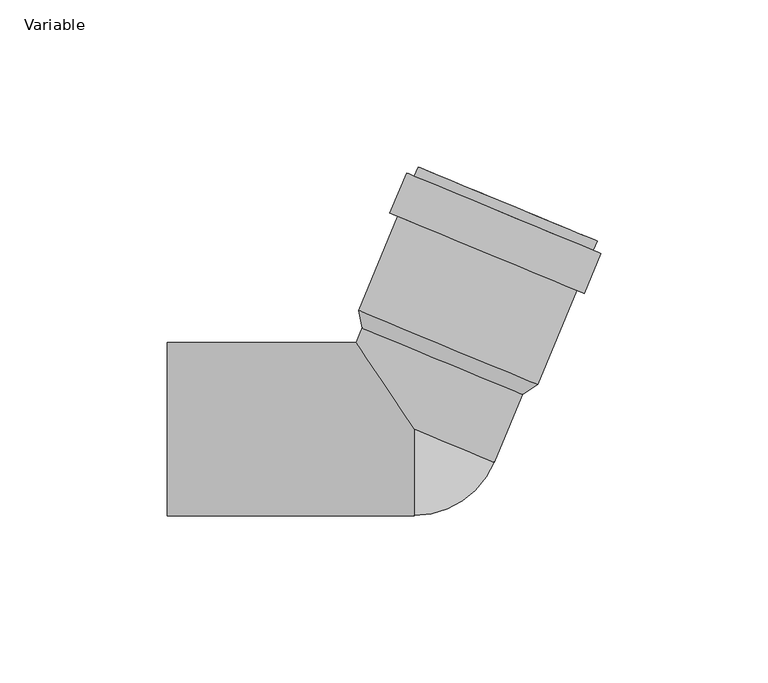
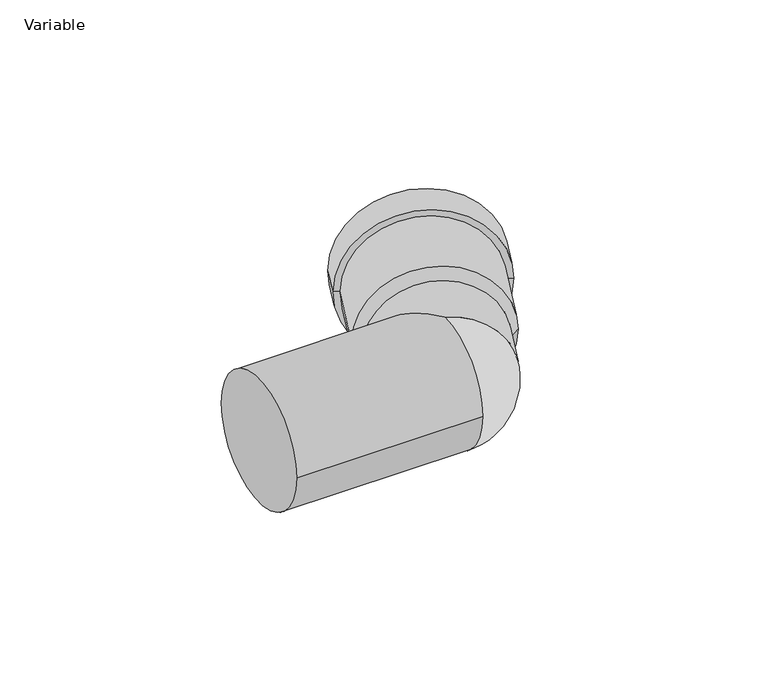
"""IFC4 building model written with IfcOpenShell, lengths in millimetres: pipe fitting geometry, AliaxisFR_Friaphon_ElbowMF_FR : Variable."""

from ifc_helpers import new_model, si_unit, point, frame, origin, place, context, project, spatial, polyline, circle_curve, ellipse_curve, trimmed, source, transform, mapped, element, save
from ifc_brep_helpers import plane_surface, cylinder_surface, revolved_surface, advanced_brep


def variable_d4c65911(model_context):
    return source(origin(), model_context, "Body", "AdvancedBrep", [
        advanced_brep(
        [(54.728397, 56.3453863, 0.0), (1.1433841, 78.5410254, 0.0), (3.9150227, 77.3929751, 0.0), (51.9567584, 57.4934366, 0.0), (50.9151609, 40.6066052, 0.0), (-7.2892496, 64.7156615, 0.0), (-2.314365, 76.7260954, 0.0), (55.8900455, 52.6170392, 0.0), (48.6054621, 41.5633138, 0.0), (-4.9795508, 63.7589529, 0.0), (36.9336174, 13.3849881, 0.0), (-16.6513955, 35.5806272, 0.0), (-15.6018323, 30.275119, 0.0), (32.4399034, 10.3755805, 0.0), (53.5803467, 53.5737477, 0.0), (-0.0046662, 75.7693868, 0.0)],
        [
            (0, 1, circle_curve(frame((27.9358906, 67.4432059, 0.0), z_axis=(0.38268343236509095, 0.9238795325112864, 0.0), x_axis=(-0.9238795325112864, 0.38268343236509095, 0.0)), 29.0)),
            (1, 2),
            (2, 3, circle_curve(frame((27.9358906, 67.4432059, 0.0), z_axis=(-0.38268343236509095, -0.9238795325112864, 0.0), x_axis=(-0.9238795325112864, 0.38268343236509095, 0.0)), 26.0)),
            (3, 0),
            (1, 0, circle_curve(frame((27.9358906, 67.4432059, 0.0), z_axis=(0.38268343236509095, 0.9238795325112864, 0.0), x_axis=(-0.9238795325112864, 0.38268343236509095, 0.0)), 29.0)),
            (3, 2, circle_curve(frame((27.9358906, 67.4432059, 0.0), z_axis=(-0.38268343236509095, -0.9238795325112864, 0.0), x_axis=(-0.9238795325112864, 0.38268343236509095, 0.0)), 26.0)),
            (4, 5, circle_curve(frame((21.8129556, 52.6611334, 0.0), z_axis=(0.38268343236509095, 0.9238795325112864, 0.0), x_axis=(-0.9238795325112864, 0.38268343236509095, 0.0)), 31.5)),
            (5, 6),
            (6, 7, circle_curve(frame((26.7878403, 64.6715673, 0.0), z_axis=(-0.38268343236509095, -0.9238795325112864, 0.0), x_axis=(-0.9238795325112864, 0.38268343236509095, 0.0)), 31.5)),
            (7, 4),
            (5, 4, circle_curve(frame((21.8129556, 52.6611334, 0.0), z_axis=(0.38268343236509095, 0.9238795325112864, 0.0), x_axis=(-0.9238795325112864, 0.38268343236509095, 0.0)), 31.5)),
            (7, 6, circle_curve(frame((26.7878403, 64.6715673, 0.0), z_axis=(-0.38268343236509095, -0.9238795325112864, 0.0), x_axis=(-0.9238795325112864, 0.38268343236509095, 0.0)), 31.5)),
            (8, 9, circle_curve(frame((21.8129556, 52.6611334, 0.0), z_axis=(0.38268343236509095, 0.9238795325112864, 0.0), x_axis=(-0.9238795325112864, 0.38268343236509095, 0.0)), 29.0)),
            (9, 5),
            (4, 8),
            (9, 8, circle_curve(frame((21.8129556, 52.6611334, 0.0), z_axis=(0.38268343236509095, 0.9238795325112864, 0.0), x_axis=(-0.9238795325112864, 0.38268343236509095, 0.0)), 29.0)),
            (10, 11, circle_curve(frame((10.141111, 24.4828076, 0.0), z_axis=(0.38268343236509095, 0.9238795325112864, 0.0), x_axis=(-0.9238795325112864, 0.38268343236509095, 0.0)), 29.0)),
            (11, 9),
            (8, 10),
            (11, 10, circle_curve(frame((10.141111, 24.4828076, 0.0), z_axis=(0.38268343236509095, 0.9238795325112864, 0.0), x_axis=(-0.9238795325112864, 0.38268343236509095, 0.0)), 29.0)),
            (2, 12),
            (12, 13, circle_curve(frame((8.4190355, 20.3253497, 0.0), z_axis=(-0.38268343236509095, -0.9238795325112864, 0.0), x_axis=(-0.9238795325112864, 0.38268343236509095, 0.0)), 26.0)),
            (13, 3),
            (13, 12, circle_curve(frame((8.4190355, 20.3253497, 0.0), z_axis=(-0.38268343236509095, -0.9238795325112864, 0.0), x_axis=(-0.9238795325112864, 0.38268343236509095, 0.0)), 26.0)),
            (12, 11),
            (10, 13),
            (14, 15, circle_curve(frame((26.7878403, 64.6715673, 0.0), z_axis=(0.38268343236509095, 0.9238795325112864, 0.0), x_axis=(-0.9238795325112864, 0.38268343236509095, 0.0)), 29.0)),
            (15, 1),
            (0, 14),
            (15, 14, circle_curve(frame((26.7878403, 64.6715673, 0.0), z_axis=(0.38268343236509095, 0.9238795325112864, 0.0), x_axis=(-0.9238795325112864, 0.38268343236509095, 0.0)), 29.0)),
            (6, 15),
            (14, 7),
        ],
        [
            plane_surface(frame((27.9358906, 67.4432059, 0.0), z_axis=(0.38268343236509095, 0.9238795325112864, 0.0), x_axis=(-0.9238795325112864, 0.38268343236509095, 0.0))),
            cylinder_surface(frame((8.4190355, 20.3253497, 0.0), z_axis=(-0.38268343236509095, -0.9238795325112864, 0.0), x_axis=(-0.9238795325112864, 0.38268343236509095, 0.0)), 31.5),
            plane_surface(frame((21.8129556, 52.6611334, 0.0), z_axis=(-0.38268343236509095, -0.9238795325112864, 0.0), x_axis=(-0.9238795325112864, 0.38268343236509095, 0.0))),
            cylinder_surface(frame((8.4190355, 20.3253497, 0.0), z_axis=(-0.38268343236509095, -0.9238795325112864, 0.0), x_axis=(-0.9238795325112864, 0.38268343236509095, 0.0)), 29.0),
            revolved_surface(polyline([(-15.601832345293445, 30.275118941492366, 0.0), (3.9150227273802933, 77.39297515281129, 0.0)]), (8.4190355, 20.3253497, 0.0), (-0.38268343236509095, -0.9238795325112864, 0.0)),
            revolved_surface(polyline([(-16.6513955, 35.5806272, 0.0), (-15.6018323, 30.275119, 0.0)]), (8.4190355, 20.3253497, 0.0), (-0.38268343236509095, -0.9238795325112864, 0.0)),
            plane_surface(frame((26.7878403, 64.6715673, 0.0), z_axis=(0.38268343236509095, 0.9238795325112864, 0.0), x_axis=(-0.9238795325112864, 0.38268343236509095, 0.0))),
        ],
        [
            (0, [[1, 2, 3, 4]]),
            (0, [[5, -4, 6, -2]]),
            (1, [[7, 8, 9, 10]]),
            (1, [[11, -10, 12, -8]]),
            (2, [[13, 14, -7, 15]]),
            (2, [[16, -15, -11, -14]]),
            (3, [[17, 18, -13, 19]]),
            (3, [[20, -19, -16, -18]]),
            (4, [[-3, 21, 22, 23]]),
            (4, [[-6, -23, 24, -21]]),
            (5, [[-22, 25, -17, 26]]),
            (5, [[-24, -26, -20, -25]]),
            (3, [[27, 28, -1, 29]]),
            (3, [[30, -29, -5, -28]]),
            (6, [[-9, 31, -27, 32]]),
            (6, [[-12, -32, -30, -31]]),
        ],
    ),
        advanced_brep(
        [(-14.453782, 33.0467576, 0.0), (9.5670858, 23.0969883, 26.0), (33.5879537, 13.1472191, 0.0), (9.5670858, 23.0969883, -26.0), (24.0208678, -9.9497692, 0.0), (-17.3726446, 26.0, 0.0), (0.0, 0.0, 26.0), (0.0, 0.0, -26.0), (-74.0, -26.0, 0.0), (-74.0, 26.0, 0.0), (0.0, -26.0, 0.0)],
        [
            (0, 1, circle_curve(frame((9.5670858, 23.0969883, 0.0), z_axis=(0.3826834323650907, 0.9238795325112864, 0.0), x_axis=(-0.9238795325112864, 0.3826834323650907, 0.0)), 26.0)),
            (1, 2, circle_curve(frame((9.5670858, 23.0969883, 0.0), z_axis=(0.3826834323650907, 0.9238795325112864, 0.0), x_axis=(-0.9238795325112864, 0.3826834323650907, 0.0)), 26.0)),
            (2, 3, circle_curve(frame((9.5670858, 23.0969883, 0.0), z_axis=(0.3826834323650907, 0.9238795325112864, 0.0), x_axis=(-0.9238795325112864, 0.3826834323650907, 0.0)), 26.0)),
            (3, 0, circle_curve(frame((9.5670858, 23.0969883, 0.0), z_axis=(0.3826834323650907, 0.9238795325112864, 0.0), x_axis=(-0.9238795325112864, 0.3826834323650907, 0.0)), 26.0)),
            (4, 2),
            (0, 5),
            (5, 6, ellipse_curve(frame((0.0, 0.0, 0.0), z_axis=(0.8314696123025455, 0.5555702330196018, 0.0), x_axis=(0.5555702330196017, -0.8314696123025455, 0.0)), 31.2699341, 26.0)),
            (6, 4, circle_curve(frame((0.0, 0.0, 0.0), z_axis=(0.3826834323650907, 0.9238795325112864, 0.0), x_axis=(-0.9238795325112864, 0.3826834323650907, 0.0)), 26.0)),
            (4, 7, circle_curve(frame((0.0, 0.0, 0.0), z_axis=(0.3826834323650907, 0.9238795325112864, 0.0), x_axis=(-0.9238795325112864, 0.3826834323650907, 0.0)), 26.0)),
            (7, 5, ellipse_curve(frame((0.0, 0.0, 0.0), z_axis=(0.8314696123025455, 0.5555702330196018, 0.0), x_axis=(0.5555702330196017, -0.8314696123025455, 0.0)), 31.2699341, 26.0)),
            (8, 9, circle_curve(frame((-74.0, 0.0, 0.0), z_axis=(-1.0, 0.0, 0.0), x_axis=(0.0, 1.0, 0.0)), 26.0)),
            (9, 8, circle_curve(frame((-74.0, 0.0, 0.0), z_axis=(-1.0, 0.0, 0.0), x_axis=(0.0, 1.0, 0.0)), 26.0)),
            (8, 10),
            (10, 6, circle_curve(frame((0.0, 0.0, 0.0), z_axis=(-1.0, 0.0, 0.0), x_axis=(0.0, 1.0, 0.0)), 26.0)),
            (5, 9),
            (7, 10, circle_curve(frame((0.0, 0.0, 0.0), z_axis=(-1.0, 0.0, 0.0), x_axis=(0.0, 1.0, 0.0)), 26.0)),
        ],
        [
            plane_surface(frame((9.5670858, 23.0969883, 0.0), z_axis=(0.3826834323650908, 0.9238795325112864, 0.0), x_axis=(0.0, 0.0, 1.0))),
            cylinder_surface(frame((0.0, 0.0, 0.0), z_axis=(-0.3826834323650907, -0.9238795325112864, 0.0), x_axis=(-0.9238795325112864, 0.3826834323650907, 0.0)), 26.0),
            plane_surface(frame((-74.0, 0.0, 0.0), z_axis=(-1.0, 0.0, 0.0), x_axis=(0.0, 0.0, 1.0))),
            cylinder_surface(frame((-74.0, 0.0, 0.0), z_axis=(-1.0, 0.0, 0.0), x_axis=(0.0, 1.0, 0.0)), 26.0),
            revolved_surface(trimmed(ellipse_curve(frame((0.0, 0.0, 0.0), z_axis=(0.3826834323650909, 0.9238795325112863, 0.0), x_axis=(-0.9238795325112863, 0.3826834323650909, 0.0)), 26.0, 26.0), [point((0.0, 0.0, 26.0))], [point((0.0, 0.0, -26.0))], True, "CARTESIAN"), (0.0, 0.0, 26.0), (0.0, 0.0, -1.0)),
        ],
        [
            (0, [[1, 2, 3, 4]]),
            (1, [[5, -2, -1, 6, 7, 8]]),
            (1, [[-5, 9, 10, -6, -4, -3]]),
            (2, [[11, 12]]),
            (3, [[-11, 13, 14, -7, 15]]),
            (3, [[-12, -15, -10, 16, -13]]),
            (4, [[-14, -16, -9, -8]]),
        ],
    ),
    ])


if __name__ == "__main__":
    model = new_model("IFC4")
    model_context = context("Model", 3, world=origin())
    ifc_project = project(units=[si_unit("LENGTHUNIT", "METRE", prefix="MILLI")], contexts=[model_context])
    site = spatial("IfcSite", under=ifc_project)
    building = spatial("IfcBuilding", under=site)
    placement = place(None, origin())
    variable_shape = variable_d4c65911(model_context)
    element("IfcPipeFitting", 1, ObjectType="AliaxisFR_Friaphon_ElbowMF_FR : Variable", at=placement, inside=building, context=model_context, shape_type="MappedRepresentation", body=[
        mapped(variable_shape, transform((0.0, 0.0, 0.0), x_axis=(1.0, 0.0, 0.0), y_axis=(0.0, 1.0, 0.0), z_axis=(0.0, 0.0, 1.0))),
    ])
    save(model, "model.ifc")
